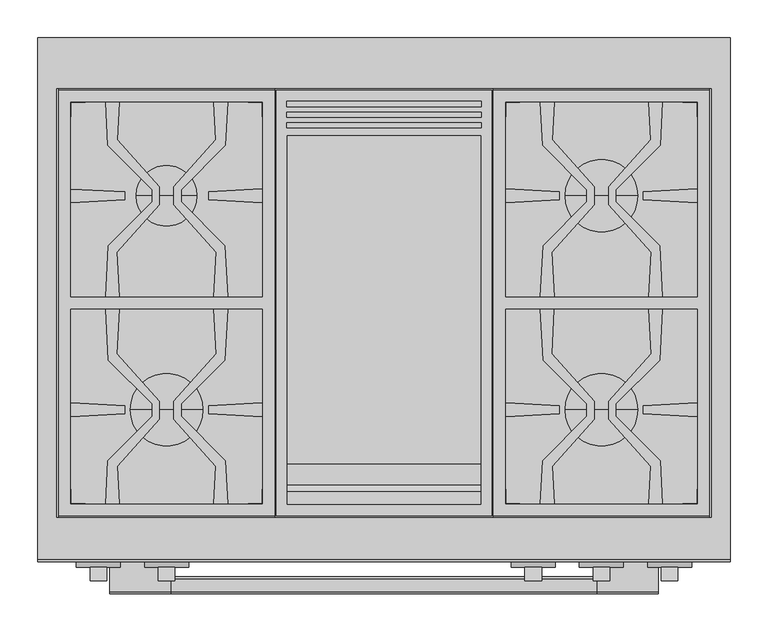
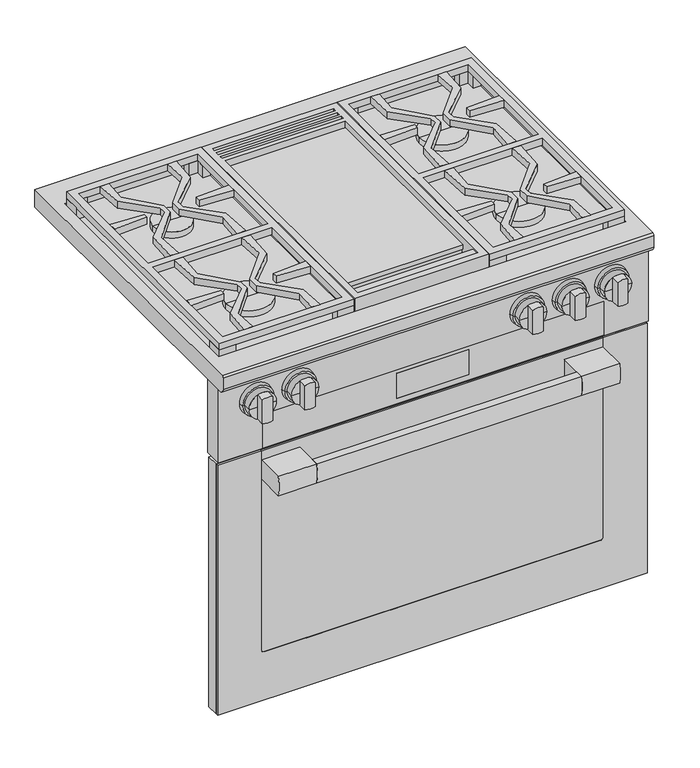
"""IFC4 building model written with IfcOpenShell, lengths in millimetres: proxy geometry, 11791610_USA_HR1936-3G_EDST-CLST : 25193681_USA_11791610_HR1936-3G_EDST-CLST."""

from ifc_helpers import new_model, si_unit, point, frame, frame_2d, origin, place, context, project, spatial, polyline, circle_curve, trimmed, segment, composite_curve, outline, extrude, faceted_brep, source, transform, mapped, element, save
from ifc_brep_helpers import plane_surface, cylinder_surface, revolved_surface, advanced_brep


def specialty_equipment_9b3b433e(model_context):
    return source(origin(), model_context, "Body", "SolidModel", [
        extrude(outline(composite_curve([segment(polyline([(-714.0, 624.0), (-731.0, 624.0)]), True, "CONTINUOUS"), segment(trimmed(circle_curve(frame_2d((-655.4583333, 645.5)), 78.5416667), [point((-731.0, 624.0))], [point((-731.0, 667.0))], False, "CARTESIAN"), True, "CONTINUOUS"), segment(polyline([(-731.0, 667.0), (-714.0, 667.0)]), True, "CONTINUOUS"), segment(trimmed(circle_curve(frame_2d((-789.5416667, 645.5)), 78.5416667), [point((-714.0, 667.0))], [point((-714.0, 624.0))], False, "CARTESIAN"), True, "CONTINUOUS")], self_intersect=False)), frame((-281.0, 0.0, 0.0), z_axis=(1.0, 0.0, 0.0), x_axis=(0.0, 1.0, 0.0)), (0.0, 0.0, 1.0), 562.0),
        extrude(outline(composite_curve([segment(polyline([(-731.0, 667.0), (-668.7, 667.0), (-668.7, 624.0), (-731.0, 624.0)]), True, "CONTINUOUS"), segment(trimmed(circle_curve(frame_2d((-655.4583333, 645.5)), 78.5416667), [point((-731.0, 624.0))], [point((-731.0, 667.0))], False, "CARTESIAN"), True, "CONTINUOUS")], self_intersect=False)), frame((281.0, 0.0, 0.0), z_axis=(1.0, 0.0, 0.0), x_axis=(0.0, 1.0, 0.0)), (0.0, 0.0, 1.0), 81.0),
        extrude(outline(composite_curve([segment(polyline([(-668.7, 667.0), (-668.7, 624.0), (-731.0, 624.0)]), True, "CONTINUOUS"), segment(trimmed(circle_curve(frame_2d((-655.4583333, 645.5)), 78.5416667), [point((-731.0, 624.0))], [point((-731.0, 667.0))], False, "CARTESIAN"), True, "CONTINUOUS"), segment(polyline([(-731.0, 667.0), (-668.7, 667.0)]), True, "CONTINUOUS")], self_intersect=False)), frame((-362.0, 0.0, 0.0), z_axis=(1.0, 0.0, 0.0), x_axis=(0.0, 1.0, 0.0)), (0.0, 0.0, 1.0), 81.0),
        extrude(outline(polyline([(-456.0, -638.0), (456.0, -638.0), (456.0, -664.7), (-456.0, -664.7), (-456.0, -638.0)])), frame((0.0, 0.0, 127.0), z_axis=(0.0, 0.0, 1.0), x_axis=(1.0, 0.0, 0.0)), (0.0, 0.0, 1.0), 561.0),
        extrude(outline(polyline([(-455.0, -664.7), (455.0, -664.7), (455.0, -668.7), (-455.0, -668.7), (-455.0, -664.7)])), frame((0.0, 0.0, 128.0), z_axis=(0.0, 0.0, 1.0), x_axis=(1.0, 0.0, 0.0)), (0.0, 0.0, 1.0), 559.0),
        advanced_brep(
        [(363.0, -664.7, 688.0), (456.0, -664.7, 688.0), (456.0, -664.7, 127.0), (-456.0, -664.7, 127.0), (-456.0, -664.7, 688.0), (-363.0, -664.7, 688.0), (-363.0, -664.7, 687.0), (-455.0, -664.7, 687.0), (-455.0, -664.7, 128.0), (455.0, -664.7, 128.0), (455.0, -664.7, 687.0), (363.0, -664.7, 687.0), (-363.0, -670.0, 688.0), (-456.0, -670.0, 688.0), (-456.0, -670.0, 127.0), (456.0, -670.0, 127.0), (456.0, -670.0, 688.0), (363.0, -670.0, 688.0), (363.0, -670.0, 241.0), (357.0, -670.0, 235.0), (-357.0, -670.0, 235.0), (-363.0, -670.0, 241.0), (-363.0, -668.7, 241.0), (-363.0, -668.7, 687.0), (357.0, -668.7, 235.0), (-357.0, -668.7, 235.0), (363.0, -668.7, 687.0), (363.0, -668.7, 241.0), (455.0, -668.7, 687.0), (455.0, -668.7, 128.0), (-455.0, -668.7, 128.0), (-455.0, -668.7, 687.0)],
        [
            (0, 1),
            (1, 2),
            (2, 3),
            (3, 4),
            (4, 5),
            (5, 6),
            (6, 7),
            (7, 8),
            (8, 9),
            (9, 10),
            (10, 11),
            (11, 0),
            (12, 13),
            (13, 14),
            (14, 15),
            (15, 16),
            (16, 17),
            (17, 18),
            (18, 19, circle_curve(frame((357.0, -670.0, 241.0), z_axis=(0.0, 1.0, 0.0), x_axis=(-1.0, 0.0, 0.0)), 6.0)),
            (19, 20),
            (20, 21, circle_curve(frame((-357.0, -670.0, 241.0), z_axis=(0.0, 1.0, 0.0), x_axis=(-1.0, 0.0, 0.0)), 6.0)),
            (21, 12),
            (21, 22),
            (22, 23),
            (23, 6),
            (5, 12),
            (19, 24),
            (24, 25),
            (25, 20),
            (17, 0),
            (11, 26),
            (26, 27),
            (27, 18),
            (16, 1),
            (15, 2),
            (14, 3),
            (13, 4),
            (25, 22, circle_curve(frame((-357.0, -668.7, 241.0), z_axis=(0.0, 1.0, 0.0), x_axis=(-1.0, 0.0, 0.0)), 6.0)),
            (27, 24, circle_curve(frame((357.0, -668.7, 241.0), z_axis=(0.0, 1.0, 0.0), x_axis=(-1.0, 0.0, 0.0)), 6.0)),
            (28, 29),
            (29, 30),
            (30, 31),
            (31, 23),
            (26, 28),
            (28, 10),
            (9, 29),
            (8, 30),
            (7, 31),
        ],
        [
            plane_surface(frame((-363.0, -664.7, 241.0), z_axis=(0.0, 1.0, 0.0), x_axis=(0.0, 0.0, -1.0))),
            plane_surface(frame((-363.0, -670.0, 241.0), z_axis=(0.0, -1.0, 0.0), x_axis=(0.0, 0.0, 1.0))),
            plane_surface(frame((-363.0, -664.7, 688.0), z_axis=(1.0, 0.0, 0.0), x_axis=(0.0, -1.0, 0.0))),
            plane_surface(frame((-357.0, -664.7, 235.0), z_axis=(0.0, 0.0, 1.0), x_axis=(0.0, -1.0, 0.0))),
            plane_surface(frame((363.0, -664.7, 241.0), z_axis=(-1.0, 0.0, 0.0), x_axis=(0.0, -1.0, 0.0))),
            plane_surface(frame((363.0, -664.7, 688.0), z_axis=(0.0, 0.0, 1.0), x_axis=(0.0, -1.0, 0.0))),
            plane_surface(frame((456.0, -664.7, 688.0), z_axis=(1.0, 0.0, 0.0), x_axis=(0.0, -1.0, 0.0))),
            plane_surface(frame((456.0, -664.7, 127.0), z_axis=(0.0, 0.0, -1.0), x_axis=(0.0, -1.0, 0.0))),
            plane_surface(frame((-456.0, -664.7, 127.0), z_axis=(-1.0, 0.0, 0.0), x_axis=(0.0, -1.0, 0.0))),
            plane_surface(frame((-456.0, -664.7, 688.0), z_axis=(0.0, 0.0, 1.0), x_axis=(0.0, -1.0, 0.0))),
            revolved_surface(polyline([(-363.0, -670.0, 241.0), (-363.0, -668.7, 241.0)]), (-357.0, -670.0, 241.0), (0.0, -1.0, 0.0)),
            revolved_surface(polyline([(351.0, -670.0, 241.0), (351.0, -668.7, 241.0)]), (357.0, -670.0, 241.0), (0.0, -1.0, 0.0)),
            plane_surface(frame((455.0, -668.7, 687.0), z_axis=(0.0, 1.0, 0.0), x_axis=(0.0, 0.0, 1.0))),
            plane_surface(frame((455.0, -664.7, 687.0), z_axis=(-1.0, 0.0, 0.0), x_axis=(0.0, -1.0, 0.0))),
            plane_surface(frame((455.0, -664.7, 128.0), z_axis=(0.0, 0.0, 1.0), x_axis=(0.0, -1.0, 0.0))),
            plane_surface(frame((-455.0, -664.7, 128.0), z_axis=(1.0, 0.0, 0.0), x_axis=(0.0, -1.0, 0.0))),
            plane_surface(frame((-455.0, -664.7, 687.0), z_axis=(0.0, 0.0, -1.0), x_axis=(0.0, -1.0, 0.0))),
        ],
        [
            (0, [[1, 2, 3, 4, 5, 6, 7, 8, 9, 10, 11, 12]]),
            (1, [[13, 14, 15, 16, 17, 18, 19, 20, 21, 22]]),
            (2, [[-22, 23, 24, 25, -6, 26]]),
            (3, [[-20, 27, 28, 29]]),
            (4, [[-18, 30, -12, 31, 32, 33]]),
            (5, [[-1, -30, -17, 34]]),
            (6, [[-2, -34, -16, 35]]),
            (7, [[-3, -35, -15, 36]]),
            (8, [[-4, -36, -14, 37]]),
            (9, [[-5, -37, -13, -26]]),
            (10, [[-21, -29, 38, -23]]),
            (11, [[-19, -33, 39, -27]]),
            (12, [[40, 41, 42, 43, -24, -38, -28, -39, -32, 44]]),
            (13, [[-40, 45, -10, 46]]),
            (14, [[-41, -46, -9, 47]]),
            (15, [[-42, -47, -8, 48]]),
            (16, [[-45, -44, -31, -11]]),
            (16, [[-48, -7, -25, -43]]),
        ],
    ),
        extrude(outline(polyline([(-427.0, -617.0), (427.0, -617.0), (427.0, -638.0), (-427.0, -638.0), (-427.0, -617.0)])), frame((0.0, 0.0, 133.0), z_axis=(0.0, 0.0, 1.0), x_axis=(1.0, 0.0, 0.0)), (0.0, 0.0, 1.0), 550.0),
        extrude(outline(polyline([(206.4177304, -358.0273828), (224.4174107, -358.0273828), (221.3474419, -416.9894265), (277.4590566, -479.568392), (277.4590566, -503.4471434), (221.8930533, -565.5024535), (224.5051055, -615.0212482), (206.5054252, -615.0212482), (209.4706458, -558.0710081), (267.8494553, -499.6921986), (267.8494553, -483.3657133), (209.9764383, -425.4926963), (206.4177304, -358.0273828)])), frame((0.0, 0.0, 914.0), z_axis=(0.0, 0.0, 1.0), x_axis=(1.0, 0.0, 0.0)), (0.0, 0.0, 1.0), 15.0),
        extrude(outline(polyline([(352.5666917, -416.9448139), (349.4588735, -358.0273828), (367.4534566, -358.0273828), (363.9434746, -425.4403498), (306.0712231, -483.3126013), (306.0712231, -499.6295194), (364.5438392, -558.1021355), (367.5462487, -615.0212482), (349.541471, -615.0212482), (352.1220648, -565.4581775), (296.4590702, -503.3795395), (296.4590702, -479.6049953), (352.5666917, -416.9448139)])), frame((0.0, 0.0, 914.0), z_axis=(0.0, 0.0, 1.0), x_axis=(1.0, 0.0, 0.0)), (0.0, 0.0, 1.0), 15.0),
        extrude(outline(polyline([(-367.5822696, -358.0273828), (-349.5825893, -358.0273828), (-352.6525581, -416.9894265), (-296.5409434, -479.568392), (-296.5409434, -503.4471434), (-352.1069467, -565.5024535), (-349.4948945, -615.0212482), (-367.4945748, -615.0212482), (-364.5293542, -558.0710081), (-306.1505447, -499.6921986), (-306.1505447, -483.3657133), (-364.0235617, -425.4926963), (-367.5822696, -358.0273828)])), frame((0.0, 0.0, 914.0), z_axis=(0.0, 0.0, 1.0), x_axis=(1.0, 0.0, 0.0)), (0.0, 0.0, 1.0), 15.0),
        extrude(outline(polyline([(-224.5411265, -358.0273828), (-206.5465434, -358.0273828), (-210.0565254, -425.4403498), (-267.9287769, -483.3126013), (-267.9287769, -499.6295194), (-209.4561608, -558.1021355), (-206.4537513, -615.0212482), (-224.458529, -615.0212482), (-221.8779352, -565.4581775), (-277.5409298, -503.3795395), (-277.5409298, -479.6049953), (-221.4333083, -416.9448139), (-224.5411265, -358.0273828)])), frame((0.0, 0.0, 914.0), z_axis=(0.0, 0.0, 1.0), x_axis=(1.0, 0.0, 0.0)), (0.0, 0.0, 1.0), 15.0),
        extrude(outline(polyline([(206.4614138, -85.0), (224.4614138, -85.0), (221.8661974, -134.5196799), (277.5, -196.6082182), (277.5, -220.3917818), (221.3710782, -283.0328838), (224.4614138, -342.0), (206.4614138, -342.0), (209.9971843, -274.5334805), (267.8891082, -216.6415566), (267.8891082, -200.3584434), (209.4441217, -141.9134569), (206.4614138, -85.0)])), frame((0.0, 0.0, 914.0), z_axis=(0.0, 0.0, 1.0), x_axis=(1.0, 0.0, 0.0)), (0.0, 0.0, 1.0), 15.0),
        extrude(outline(polyline([(349.5, -85.0), (367.5, -85.0), (364.5172921, -141.9134569), (306.1108918, -200.3198573), (306.1108918, -216.6801428), (363.9642295, -274.5334805), (367.5, -342.0), (349.5, -342.0), (352.5903356, -283.0328839), (296.5, -220.4348449), (296.5, -196.5651551), (352.0952165, -134.5196799), (349.5, -85.0)])), frame((0.0, 0.0, 914.0), z_axis=(0.0, 0.0, 1.0), x_axis=(1.0, 0.0, 0.0)), (0.0, 0.0, 1.0), 15.0),
        extrude(outline(polyline([(-367.5385862, -85.0), (-349.5385862, -85.0), (-352.1338026, -134.5196799), (-296.5, -196.6082182), (-296.5, -220.3917818), (-352.6289218, -283.0328838), (-349.5385862, -342.0), (-367.5385862, -342.0), (-364.0028157, -274.5334805), (-306.1108918, -216.6415566), (-306.1108918, -200.3584434), (-364.5558783, -141.9134569), (-367.5385862, -85.0)])), frame((0.0, 0.0, 914.0), z_axis=(0.0, 0.0, 1.0), x_axis=(1.0, 0.0, 0.0)), (0.0, 0.0, 1.0), 15.0),
        extrude(outline(polyline([(-224.5, -85.0), (-206.5, -85.0), (-209.4827079, -141.9134569), (-267.8891082, -200.3198573), (-267.8891082, -216.6801428), (-210.0357705, -274.5334805), (-206.5, -342.0), (-224.5, -342.0), (-221.4096644, -283.0328839), (-277.5, -220.4348449), (-277.5, -196.5651551), (-221.9047835, -134.5196799), (-224.5, -85.0)])), frame((0.0, 0.0, 914.0), z_axis=(0.0, 0.0, 1.0), x_axis=(1.0, 0.0, 0.0)), (0.0, 0.0, 1.0), 15.0),
        extrude(outline(polyline([(429.5, -67.0), (429.5, -633.0), (144.5, -633.0), (144.5, -67.0), (429.5, -67.0)])), frame((0.0, 0.0, 870.0), z_axis=(0.0, 0.0, 1.0), x_axis=(1.0, 0.0, 0.0)), (0.0, 0.0, 1.0), 17.0),
        extrude(outline(polyline([(-144.5, -67.0), (-144.5, -633.0), (-429.5, -633.0), (-429.5, -67.0), (-144.5, -67.0)])), frame((0.0, 0.0, 870.0), z_axis=(0.0, 0.0, 1.0), x_axis=(1.0, 0.0, 0.0)), (0.0, 0.0, 1.0), 17.0),
        extrude(outline(polyline([(-342.5, -213.7921261), (-413.5, -217.4578849), (-413.5, -199.5421151), (-342.5, -203.2078739), (-342.5, -213.7921261)])), frame((0.0, 0.0, 914.0), z_axis=(0.0, 0.0, 1.0), x_axis=(1.0, 0.0, 0.0)), (0.0, 0.0, 1.0), 15.0),
        extrude(outline(polyline([(-160.5, -199.5029948), (-160.5, -217.4970052), (-231.5, -213.7790477), (-231.5, -203.2209523), (-160.5, -199.5029948)])), frame((0.0, 0.0, 914.0), z_axis=(0.0, 0.0, 1.0), x_axis=(1.0, 0.0, 0.0)), (0.0, 0.0, 1.0), 15.0),
        extrude(outline(polyline([(-342.5, -496.2921261), (-413.5, -499.9578849), (-413.5, -482.0421151), (-342.5, -485.7078739), (-342.5, -496.2921261)])), frame((0.0, 0.0, 914.0), z_axis=(0.0, 0.0, 1.0), x_axis=(1.0, 0.0, 0.0)), (0.0, 0.0, 1.0), 15.0),
        extrude(outline(polyline([(-160.5, -482.0029948), (-160.5, -499.9970052), (-231.5, -496.2790477), (-231.5, -485.7209523), (-160.5, -482.0029948)])), frame((0.0, 0.0, 914.0), z_axis=(0.0, 0.0, 1.0), x_axis=(1.0, 0.0, 0.0)), (0.0, 0.0, 1.0), 15.0),
        extrude(outline(polyline([(-144.5, -631.0), (-179.5, -631.0), (-179.5, -615.0), (-160.5, -615.0), (-160.5, -596.0), (-144.5, -596.0), (-144.5, -631.0)])), frame((0.0, 0.0, 887.0), z_axis=(0.0, 0.0, 1.0), x_axis=(1.0, 0.0, 0.0)), (0.0, 0.0, 1.0), 27.0),
        extrude(outline(polyline([(-429.5, -631.0), (-429.5, -596.0), (-413.5, -596.0), (-413.5, -615.0), (-394.5, -615.0), (-394.5, -631.0), (-429.5, -631.0)])), frame((0.0, 0.0, 887.0), z_axis=(0.0, 0.0, 1.0), x_axis=(1.0, 0.0, 0.0)), (0.0, 0.0, 1.0), 27.0),
        extrude(outline(polyline([(-144.5, -69.0), (-144.5, -104.0), (-160.5, -104.0), (-160.5, -85.0), (-179.5, -85.0), (-179.5, -69.0), (-144.5, -69.0)])), frame((0.0, 0.0, 887.0), z_axis=(0.0, 0.0, 1.0), x_axis=(1.0, 0.0, 0.0)), (0.0, 0.0, 1.0), 27.0),
        extrude(outline(polyline([(-429.5, -69.0), (-394.5, -69.0), (-394.5, -85.0), (-413.5, -85.0), (-413.5, -104.0), (-429.5, -104.0), (-429.5, -69.0)])), frame((0.0, 0.0, 887.0), z_axis=(0.0, 0.0, 1.0), x_axis=(1.0, 0.0, 0.0)), (0.0, 0.0, 1.0), 27.0),
        extrude(outline(polyline([(160.5, -499.9810574), (160.5, -482.0189426), (231.5, -485.7078739), (231.5, -496.2921261), (160.5, -499.9810574)])), frame((0.0, 0.0, 914.0), z_axis=(0.0, 0.0, 1.0), x_axis=(1.0, 0.0, 0.0)), (0.0, 0.0, 1.0), 15.0),
        extrude(outline(polyline([(413.5, -482.0262039), (413.5, -499.9737961), (342.5, -496.2790477), (342.5, -485.7209523), (413.5, -482.0262039)])), frame((0.0, 0.0, 914.0), z_axis=(0.0, 0.0, 1.0), x_axis=(1.0, 0.0, 0.0)), (0.0, 0.0, 1.0), 15.0),
        extrude(outline(polyline([(160.5, -217.4810574), (160.5, -199.5189426), (231.5, -203.2078739), (231.5, -213.7921261), (160.5, -217.4810574)])), frame((0.0, 0.0, 914.0), z_axis=(0.0, 0.0, 1.0), x_axis=(1.0, 0.0, 0.0)), (0.0, 0.0, 1.0), 15.0),
        extrude(outline(polyline([(413.5, -199.5262039), (413.5, -217.4737961), (342.5, -213.7790477), (342.5, -203.2209523), (413.5, -199.5262039)])), frame((0.0, 0.0, 914.0), z_axis=(0.0, 0.0, 1.0), x_axis=(1.0, 0.0, 0.0)), (0.0, 0.0, 1.0), 15.0),
        advanced_brep(
        [(239.0, -208.5, 887.0), (335.0, -208.5, 887.0), (335.0, -208.5, 901.0), (239.0, -208.5, 901.0), (287.0, -208.5, 887.0), (287.0, -208.5, 901.0)],
        [
            (0, 1, circle_curve(frame((287.0, -208.5, 887.0), z_axis=(0.0, 0.0, 1.0), x_axis=(1.0, 0.0, 0.0)), 48.0)),
            (1, 2),
            (2, 3, circle_curve(frame((287.0, -208.5, 901.0), z_axis=(0.0, 0.0, -1.0), x_axis=(1.0, 0.0, 0.0)), 48.0)),
            (3, 0),
            (1, 0, circle_curve(frame((287.0, -208.5, 887.0), z_axis=(0.0, 0.0, 1.0), x_axis=(1.0, 0.0, 0.0)), 48.0)),
            (3, 2, circle_curve(frame((287.0, -208.5, 901.0), z_axis=(0.0, 0.0, -1.0), x_axis=(1.0, 0.0, 0.0)), 48.0)),
            (4, 1),
            (0, 4),
            (2, 5),
            (5, 3),
        ],
        [
            cylinder_surface(frame((287.0, -208.5, 2424.4), z_axis=(0.0, 0.0, -1.0), x_axis=(1.0, 0.0, 0.0)), 48.0),
            plane_surface(frame((287.0, -208.5, 887.0), z_axis=(0.0, 0.0, -1.0), x_axis=(1.0, 0.0, 0.0))),
            plane_surface(frame((287.0, -208.5, 901.0), z_axis=(0.0, 0.0, 1.0), x_axis=(1.0, 0.0, 0.0))),
        ],
        [
            (0, [[1, 2, 3, 4]]),
            (0, [[5, -4, 6, -2]]),
            (1, [[7, -1, 8]]),
            (1, [[-8, -5, -7]]),
            (2, [[-3, 9, 10]]),
            (2, [[-6, -10, -9]]),
        ],
    ),
        extrude(outline(polyline([(-144.5, -69.0), (-144.5, -631.0), (-429.5, -631.0), (-429.5, -69.0), (-144.5, -69.0)]), holes=[polyline([(-160.5, -85.0), (-413.5, -85.0), (-413.5, -342.0), (-160.5, -342.0), (-160.5, -85.0)]), polyline([(-413.5, -358.0), (-413.5, -615.0), (-160.5, -615.0), (-160.5, -358.0), (-413.5, -358.0)])]), frame((0.0, 0.0, 914.0), z_axis=(0.0, 0.0, 1.0), x_axis=(1.0, 0.0, 0.0)), (0.0, 0.0, 1.0), 15.0),
        extrude(outline(polyline([(429.5, -69.0), (429.5, -631.0), (144.5, -631.0), (144.5, -69.0), (429.5, -69.0)]), holes=[polyline([(413.5, -85.0), (160.5, -85.0), (160.5, -342.0), (413.5, -342.0), (413.5, -85.0)]), polyline([(160.5, -358.0), (160.5, -615.0), (413.5, -615.0), (413.5, -358.0), (160.5, -358.0)])]), frame((0.0, 0.0, 914.0), z_axis=(0.0, 0.0, 1.0), x_axis=(1.0, 0.0, 0.0)), (0.0, 0.0, 1.0), 15.0),
        advanced_brep(
        [(239.0, -491.0, 887.0), (335.0, -491.0, 887.0), (335.0, -491.0, 901.0), (239.0, -491.0, 901.0), (287.0, -491.0, 887.0), (287.0, -491.0, 901.0)],
        [
            (0, 1, circle_curve(frame((287.0, -491.0, 887.0), z_axis=(0.0, 0.0, 1.0), x_axis=(1.0, 0.0, 0.0)), 48.0)),
            (1, 2),
            (2, 3, circle_curve(frame((287.0, -491.0, 901.0), z_axis=(0.0, 0.0, -1.0), x_axis=(1.0, 0.0, 0.0)), 48.0)),
            (3, 0),
            (1, 0, circle_curve(frame((287.0, -491.0, 887.0), z_axis=(0.0, 0.0, 1.0), x_axis=(1.0, 0.0, 0.0)), 48.0)),
            (3, 2, circle_curve(frame((287.0, -491.0, 901.0), z_axis=(0.0, 0.0, -1.0), x_axis=(1.0, 0.0, 0.0)), 48.0)),
            (4, 1),
            (0, 4),
            (2, 5),
            (5, 3),
        ],
        [
            cylinder_surface(frame((287.0, -491.0, 2424.4), z_axis=(0.0, 0.0, -1.0), x_axis=(1.0, 0.0, 0.0)), 48.0),
            plane_surface(frame((287.0, -491.0, 887.0), z_axis=(0.0, 0.0, -1.0), x_axis=(1.0, 0.0, 0.0))),
            plane_surface(frame((287.0, -491.0, 901.0), z_axis=(0.0, 0.0, 1.0), x_axis=(1.0, 0.0, 0.0))),
        ],
        [
            (0, [[1, 2, 3, 4]]),
            (0, [[5, -4, 6, -2]]),
            (1, [[7, -1, 8]]),
            (1, [[-8, -5, -7]]),
            (2, [[-3, 9, 10]]),
            (2, [[-6, -10, -9]]),
        ],
    ),
        extrude(outline(polyline([(429.5, -631.0), (394.5, -631.0), (394.5, -615.0), (413.5, -615.0), (413.5, -596.0), (429.5, -596.0), (429.5, -631.0)])), frame((0.0, 0.0, 887.0), z_axis=(0.0, 0.0, 1.0), x_axis=(1.0, 0.0, 0.0)), (0.0, 0.0, 1.0), 27.0),
        extrude(outline(polyline([(144.5, -631.0), (144.5, -596.0), (160.5125078, -596.0), (160.5125078, -615.0), (179.5, -615.0), (179.5, -631.0), (144.5, -631.0)])), frame((0.0, 0.0, 887.0), z_axis=(0.0, 0.0, 1.0), x_axis=(1.0, 0.0, 0.0)), (0.0, 0.0, 1.0), 27.0),
        extrude(outline(polyline([(429.5, -69.0), (429.5, -104.0), (413.4874922, -104.0), (413.4874922, -85.0), (394.5, -85.0), (394.5, -69.0), (429.5, -69.0)])), frame((0.0, 0.0, 887.0), z_axis=(0.0, 0.0, 1.0), x_axis=(1.0, 0.0, 0.0)), (0.0, 0.0, 1.0), 27.0),
        extrude(outline(polyline([(144.5, -69.0), (179.5, -69.0), (179.5, -85.0), (160.5125078, -85.0), (160.5125078, -104.0), (144.5, -104.0), (144.5, -69.0)])), frame((0.0, 0.0, 887.0), z_axis=(0.0, 0.0, 1.0), x_axis=(1.0, 0.0, 0.0)), (0.0, 0.0, 1.0), 27.0),
        advanced_brep(
        [(-287.0, -208.5, 887.0), (-247.0, -208.5, 887.0), (-327.0, -208.5, 887.0), (-327.0, -208.5, 901.0), (-247.0, -208.5, 901.0), (-287.0, -208.5, 901.0)],
        [
            (0, 1),
            (1, 2, circle_curve(frame((-287.0, -208.5, 887.0), z_axis=(0.0, 0.0, -1.0), x_axis=(1.0, 0.0, 0.0)), 40.0)),
            (2, 0),
            (2, 1, circle_curve(frame((-287.0, -208.5, 887.0), z_axis=(0.0, 0.0, -1.0), x_axis=(1.0, 0.0, 0.0)), 40.0)),
            (3, 4, circle_curve(frame((-287.0, -208.5, 901.0), z_axis=(0.0, 0.0, 1.0), x_axis=(1.0, 0.0, 0.0)), 40.0)),
            (4, 5),
            (5, 3),
            (4, 3, circle_curve(frame((-287.0, -208.5, 901.0), z_axis=(0.0, 0.0, 1.0), x_axis=(1.0, 0.0, 0.0)), 40.0)),
            (1, 4),
            (3, 2),
        ],
        [
            plane_surface(frame((-287.0, -208.5, 887.0), z_axis=(0.0, 0.0, -1.0), x_axis=(1.0, 0.0, 0.0))),
            plane_surface(frame((-287.0, -208.5, 901.0), z_axis=(0.0, 0.0, 1.0), x_axis=(1.0, 0.0, 0.0))),
            cylinder_surface(frame((-287.0, -208.5, 2424.4), z_axis=(0.0, 0.0, -1.0), x_axis=(1.0, 0.0, 0.0)), 40.0),
        ],
        [
            (0, [[1, 2, 3]]),
            (0, [[-3, 4, -1]]),
            (1, [[5, 6, 7]]),
            (1, [[8, -7, -6]]),
            (2, [[-2, 9, -5, 10]]),
            (2, [[-4, -10, -8, -9]]),
        ],
    ),
        advanced_brep(
        [(-335.0, -491.0, 887.0), (-239.0, -491.0, 887.0), (-239.0, -491.0, 901.0), (-335.0, -491.0, 901.0), (-287.0, -491.0, 887.0), (-287.0, -491.0, 901.0)],
        [
            (0, 1, circle_curve(frame((-287.0, -491.0, 887.0), z_axis=(0.0, 0.0, 1.0), x_axis=(1.0, 0.0, 0.0)), 48.0)),
            (1, 2),
            (2, 3, circle_curve(frame((-287.0, -491.0, 901.0), z_axis=(0.0, 0.0, -1.0), x_axis=(1.0, 0.0, 0.0)), 48.0)),
            (3, 0),
            (1, 0, circle_curve(frame((-287.0, -491.0, 887.0), z_axis=(0.0, 0.0, 1.0), x_axis=(1.0, 0.0, 0.0)), 48.0)),
            (3, 2, circle_curve(frame((-287.0, -491.0, 901.0), z_axis=(0.0, 0.0, -1.0), x_axis=(1.0, 0.0, 0.0)), 48.0)),
            (4, 1),
            (0, 4),
            (2, 5),
            (5, 3),
        ],
        [
            cylinder_surface(frame((-287.0, -491.0, 2424.4), z_axis=(0.0, 0.0, -1.0), x_axis=(1.0, 0.0, 0.0)), 48.0),
            plane_surface(frame((-287.0, -491.0, 887.0), z_axis=(0.0, 0.0, -1.0), x_axis=(1.0, 0.0, 0.0))),
            plane_surface(frame((-287.0, -491.0, 901.0), z_axis=(0.0, 0.0, 1.0), x_axis=(1.0, 0.0, 0.0))),
        ],
        [
            (0, [[1, 2, 3, 4]]),
            (0, [[5, -4, 6, -2]]),
            (1, [[7, -1, 8]]),
            (1, [[-8, -5, -7]]),
            (2, [[-3, 9, 10]]),
            (2, [[-6, -10, -9]]),
        ],
    ),
        advanced_brep(
        [(457.0, 0.0, 902.0), (457.0, -688.3499547, 902.0), (457.0, -692.0, 898.3499547), (457.0, -692.0, 872.0), (457.0, -682.0, 862.0), (457.0, 0.0, 862.0), (-457.0, 0.0, 902.0), (-457.0, 0.0, 862.0), (-457.0, -682.0, 862.0), (-457.0, -692.0, 872.0), (-457.0, -692.0, 898.3499547), (-457.0, -688.3499547, 902.0), (-432.0, -67.0, 902.0), (432.0, -67.0, 902.0), (432.0, -633.0, 902.0), (-432.0, -633.0, 902.0), (432.0, -67.0, 870.0), (-432.0, -67.0, 870.0), (-432.0, -633.0, 870.0), (432.0, -633.0, 870.0)],
        [
            (0, 1),
            (1, 2, circle_curve(frame((457.0, -688.0, 898.0), z_axis=(1.0, 0.0, 0.0), x_axis=(0.0, 0.0, 1.0)), 4.0152794)),
            (2, 3),
            (3, 4, circle_curve(frame((457.0, -682.0, 872.0), z_axis=(1.0, 0.0, 0.0), x_axis=(0.0, 0.0, 1.0)), 10.0)),
            (4, 5),
            (5, 0),
            (6, 7),
            (7, 8),
            (8, 9, circle_curve(frame((-457.0, -682.0, 872.0), z_axis=(-1.0, 0.0, 0.0), x_axis=(0.0, 0.0, 1.0)), 10.0)),
            (9, 10),
            (10, 11, circle_curve(frame((-457.0, -688.0, 898.0), z_axis=(-1.0, 0.0, 0.0), x_axis=(0.0, 0.0, 1.0)), 4.0152794)),
            (11, 6),
            (0, 6),
            (11, 1),
            (12, 13),
            (13, 14),
            (14, 15),
            (15, 12),
            (10, 2),
            (9, 3),
            (8, 4),
            (7, 5),
            (16, 17),
            (17, 18),
            (18, 19),
            (19, 16),
            (16, 13),
            (12, 17),
            (15, 18),
            (14, 19),
        ],
        [
            plane_surface(frame((457.0, -688.3499547, 902.0), z_axis=(1.0, 0.0, 0.0), x_axis=(0.0, -1.0, 0.0))),
            plane_surface(frame((-457.0, -688.3499547, 902.0), z_axis=(-1.0, 0.0, 0.0), x_axis=(0.0, 1.0, 0.0))),
            plane_surface(frame((457.0, 0.0, 902.0), z_axis=(0.0, 0.0, 1.0), x_axis=(-1.0, 0.0, 0.0))),
            cylinder_surface(frame((-457.0, -688.0, 898.0), z_axis=(1.0, 0.0, 0.0), x_axis=(0.0, 0.0, 1.0)), 4.0152794),
            plane_surface(frame((457.0, -692.0, 898.3499547), z_axis=(0.0, -1.0, 0.0), x_axis=(-1.0, 0.0, 0.0))),
            cylinder_surface(frame((-457.0, -682.0, 872.0), z_axis=(1.0, 0.0, 0.0), x_axis=(0.0, 0.0, 1.0)), 10.0),
            plane_surface(frame((457.0, -682.0, 862.0), z_axis=(0.0, 0.0, -1.0), x_axis=(-1.0, 0.0, 0.0))),
            plane_surface(frame((457.0, 0.0, 862.0), z_axis=(0.0, 1.0, 0.0), x_axis=(-1.0, 0.0, 0.0))),
            plane_surface(frame((-432.0, -67.0, 870.0), z_axis=(0.0, 0.0, 1.0), x_axis=(1.0, 0.0, 0.0))),
            plane_surface(frame((432.0, -67.0, 902.0), z_axis=(0.0, -1.0, 0.0), x_axis=(0.0, 0.0, -1.0))),
            plane_surface(frame((-432.0, -67.0, 902.0), z_axis=(1.0, 0.0, 0.0), x_axis=(0.0, 0.0, -1.0))),
            plane_surface(frame((-432.0, -633.0, 902.0), z_axis=(0.0, 1.0, 0.0), x_axis=(0.0, 0.0, -1.0))),
            plane_surface(frame((432.0, -633.0, 902.0), z_axis=(-1.0, 0.0, 0.0), x_axis=(0.0, 0.0, -1.0))),
        ],
        [
            (0, [[1, 2, 3, 4, 5, 6]]),
            (1, [[7, 8, 9, 10, 11, 12]]),
            (2, [[-1, 13, -12, 14], [15, 16, 17, 18]]),
            (3, [[-2, -14, -11, 19]]),
            (4, [[-3, -19, -10, 20]]),
            (5, [[-4, -20, -9, 21]]),
            (6, [[-5, -21, -8, 22]]),
            (7, [[-6, -22, -7, -13]]),
            (8, [[23, 24, 25, 26]]),
            (9, [[-23, 27, -15, 28]]),
            (10, [[-24, -28, -18, 29]]),
            (11, [[-25, -29, -17, 30]]),
            (12, [[-26, -30, -16, -27]]),
        ],
    ),
        extrude(outline(polyline([(-599.0, 926.0), (-599.0, 916.0), (-602.0, 916.0), (-590.3423085, 891.0), (-558.0, 891.0), (-558.0, 904.0), (-562.0, 904.0), (-562.0, 914.0), (-129.0, 914.0), (-129.0, 904.0), (-557.0, 904.0), (-557.0, 890.0), (-590.9793788, 890.0), (-603.1033779, 916.0), (-616.0, 916.0), (-616.0, 926.0), (-599.0, 926.0)])), frame((-127.5, 0.0, 0.0), z_axis=(1.0, 0.0, 0.0), x_axis=(0.0, 1.0, 0.0)), (0.0, 0.0, 1.0), 255.0),
        extrude(outline(polyline([(142.5, -69.0), (142.5, -631.0), (-142.5, -631.0), (-142.5, -69.0), (142.5, -69.0)]), holes=[polyline([(127.5, -129.0), (-127.5, -129.0), (-127.5, -616.0), (127.5, -616.0), (127.5, -129.0)]), polyline([(-128.5, -84.0), (-128.5, -91.0), (128.5, -91.0), (128.5, -84.0), (-128.5, -84.0)]), polyline([(-128.5, -98.0), (-128.5, -105.0), (128.5, -105.0), (128.5, -98.0), (-128.5, -98.0)]), polyline([(-128.5, -112.0), (-128.5, -119.0), (128.5, -119.0), (128.5, -112.0), (-128.5, -112.0)])]), frame((0.0, 0.0, 891.0), z_axis=(0.0, 0.0, 1.0), x_axis=(1.0, 0.0, 0.0)), (0.0, 0.0, 1.0), 38.0),
        extrude(outline(composite_curve([segment(polyline([(839.8328157, -388.0), (786.1671843, -388.0)]), True, "CONTINUOUS"), segment(trimmed(circle_curve(frame_2d((813.0, -377.0)), 29.0), [point((786.1671843, -388.0))], [point((786.1671843, -366.0))], False, "CARTESIAN"), True, "CONTINUOUS"), segment(polyline([(786.1671843, -366.0), (839.8328157, -366.0)]), True, "CONTINUOUS"), segment(trimmed(circle_curve(frame_2d((813.0, -377.0)), 29.0), [point((839.8328157, -366.0))], [point((839.8328157, -388.0))], False, "CARTESIAN"), True, "CONTINUOUS")], self_intersect=False)), frame((0.0, -717.0, 0.0), z_axis=(0.0, 1.0, 0.0), x_axis=(0.0, 0.0, 1.0)), (0.0, 0.0, 1.0), 18.0),
        extrude(outline(composite_curve([segment(polyline([(839.8328157, -298.0), (786.1671843, -298.0)]), True, "CONTINUOUS"), segment(trimmed(circle_curve(frame_2d((813.0, -287.0)), 29.0), [point((786.1671843, -298.0))], [point((786.1671843, -276.0))], False, "CARTESIAN"), True, "CONTINUOUS"), segment(polyline([(786.1671843, -276.0), (839.8328157, -276.0)]), True, "CONTINUOUS"), segment(trimmed(circle_curve(frame_2d((813.0, -287.0)), 29.0), [point((839.8328157, -276.0))], [point((839.8328157, -298.0))], False, "CARTESIAN"), True, "CONTINUOUS")], self_intersect=False)), frame((0.0, -717.0, 0.0), z_axis=(0.0, 1.0, 0.0), x_axis=(0.0, 0.0, 1.0)), (0.0, 0.0, 1.0), 18.0),
        extrude(outline(composite_curve([segment(polyline([(839.8328157, 186.0), (786.1671843, 186.0)]), True, "CONTINUOUS"), segment(trimmed(circle_curve(frame_2d((813.0, 197.0)), 29.0), [point((786.1671843, 186.0))], [point((786.1671843, 208.0))], False, "CARTESIAN"), True, "CONTINUOUS"), segment(polyline([(786.1671843, 208.0), (839.8328157, 208.0)]), True, "CONTINUOUS"), segment(trimmed(circle_curve(frame_2d((813.0, 197.0)), 29.0), [point((839.8328157, 208.0))], [point((839.8328157, 186.0))], False, "CARTESIAN"), True, "CONTINUOUS")], self_intersect=False)), frame((0.0, -717.0, 0.0), z_axis=(0.0, 1.0, 0.0), x_axis=(0.0, 0.0, 1.0)), (0.0, 0.0, 1.0), 18.0),
        extrude(outline(composite_curve([segment(trimmed(circle_curve(frame_2d((813.0, 287.0)), 29.0), [point((786.1671843, 276.0))], [point((786.1671843, 298.0))], False, "CARTESIAN"), True, "CONTINUOUS"), segment(polyline([(786.1671843, 298.0), (839.8328157, 298.0)]), True, "CONTINUOUS"), segment(trimmed(circle_curve(frame_2d((813.0, 287.0)), 29.0), [point((839.8328157, 298.0))], [point((839.8328157, 276.0))], False, "CARTESIAN"), True, "CONTINUOUS"), segment(polyline([(839.8328157, 276.0), (786.1671843, 276.0)]), True, "CONTINUOUS")], self_intersect=False)), frame((0.0, -717.0, 0.0), z_axis=(0.0, 1.0, 0.0), x_axis=(0.0, 0.0, 1.0)), (0.0, 0.0, 1.0), 18.0),
        advanced_brep(
        [(-377.0, -683.0, 813.0), (-348.0, -683.0, 813.0), (-406.0, -683.0, 813.0), (-406.0, -699.0, 813.0), (-348.0, -699.0, 813.0), (-377.0, -699.0, 813.0)],
        [
            (0, 1),
            (1, 2, circle_curve(frame((-377.0, -683.0, 813.0), z_axis=(0.0, 1.0, 0.0), x_axis=(1.0, 0.0, 0.0)), 29.0)),
            (2, 0),
            (2, 1, circle_curve(frame((-377.0, -683.0, 813.0), z_axis=(0.0, 1.0, 0.0), x_axis=(1.0, 0.0, 0.0)), 29.0)),
            (3, 4, circle_curve(frame((-377.0, -699.0, 813.0), z_axis=(0.0, -1.0, 0.0), x_axis=(1.0, 0.0, 0.0)), 29.0)),
            (4, 5),
            (5, 3),
            (4, 3, circle_curve(frame((-377.0, -699.0, 813.0), z_axis=(0.0, -1.0, 0.0), x_axis=(1.0, 0.0, 0.0)), 29.0)),
            (1, 4),
            (3, 2),
        ],
        [
            plane_surface(frame((-377.0, -683.0, 813.0), z_axis=(0.0, 1.0, 0.0), x_axis=(1.0, 0.0, 0.0))),
            plane_surface(frame((-377.0, -699.0, 813.0), z_axis=(0.0, -1.0, 0.0), x_axis=(1.0, 0.0, 0.0))),
            cylinder_surface(frame((-377.0, 751.3738435, 813.0), z_axis=(0.0, 1.0, 0.0), x_axis=(1.0, 0.0, 0.0)), 29.0),
        ],
        [
            (0, [[1, 2, 3]]),
            (0, [[-3, 4, -1]]),
            (1, [[5, 6, 7]]),
            (1, [[8, -7, -6]]),
            (2, [[-2, 9, -5, 10]]),
            (2, [[-4, -10, -8, -9]]),
        ],
    ),
        advanced_brep(
        [(-287.0, -683.0, 813.0), (-258.0, -683.0, 813.0), (-316.0, -683.0, 813.0), (-316.0, -699.0, 813.0), (-258.0, -699.0, 813.0), (-287.0, -699.0, 813.0)],
        [
            (0, 1),
            (1, 2, circle_curve(frame((-287.0, -683.0, 813.0), z_axis=(0.0, 1.0, 0.0), x_axis=(1.0, 0.0, 0.0)), 29.0)),
            (2, 0),
            (2, 1, circle_curve(frame((-287.0, -683.0, 813.0), z_axis=(0.0, 1.0, 0.0), x_axis=(1.0, 0.0, 0.0)), 29.0)),
            (3, 4, circle_curve(frame((-287.0, -699.0, 813.0), z_axis=(0.0, -1.0, 0.0), x_axis=(1.0, 0.0, 0.0)), 29.0)),
            (4, 5),
            (5, 3),
            (4, 3, circle_curve(frame((-287.0, -699.0, 813.0), z_axis=(0.0, -1.0, 0.0), x_axis=(1.0, 0.0, 0.0)), 29.0)),
            (1, 4),
            (3, 2),
        ],
        [
            plane_surface(frame((-287.0, -683.0, 813.0), z_axis=(0.0, 1.0, 0.0), x_axis=(1.0, 0.0, 0.0))),
            plane_surface(frame((-287.0, -699.0, 813.0), z_axis=(0.0, -1.0, 0.0), x_axis=(1.0, 0.0, 0.0))),
            cylinder_surface(frame((-287.0, 751.3738435, 813.0), z_axis=(0.0, 1.0, 0.0), x_axis=(1.0, 0.0, 0.0)), 29.0),
        ],
        [
            (0, [[1, 2, 3]]),
            (0, [[-3, 4, -1]]),
            (1, [[5, 6, 7]]),
            (1, [[8, -7, -6]]),
            (2, [[-2, 9, -5, 10]]),
            (2, [[-4, -10, -8, -9]]),
        ],
    ),
        advanced_brep(
        [(197.0, -683.0, 813.0), (226.0, -683.0, 813.0), (168.0, -683.0, 813.0), (168.0, -699.0, 813.0), (226.0, -699.0, 813.0), (197.0, -699.0, 813.0)],
        [
            (0, 1),
            (1, 2, circle_curve(frame((197.0, -683.0, 813.0), z_axis=(0.0, 1.0, 0.0), x_axis=(1.0, 0.0, 0.0)), 29.0)),
            (2, 0),
            (2, 1, circle_curve(frame((197.0, -683.0, 813.0), z_axis=(0.0, 1.0, 0.0), x_axis=(1.0, 0.0, 0.0)), 29.0)),
            (3, 4, circle_curve(frame((197.0, -699.0, 813.0), z_axis=(0.0, -1.0, 0.0), x_axis=(1.0, 0.0, 0.0)), 29.0)),
            (4, 5),
            (5, 3),
            (4, 3, circle_curve(frame((197.0, -699.0, 813.0), z_axis=(0.0, -1.0, 0.0), x_axis=(1.0, 0.0, 0.0)), 29.0)),
            (1, 4),
            (3, 2),
        ],
        [
            plane_surface(frame((197.0, -683.0, 813.0), z_axis=(0.0, 1.0, 0.0), x_axis=(1.0, 0.0, 0.0))),
            plane_surface(frame((197.0, -699.0, 813.0), z_axis=(0.0, -1.0, 0.0), x_axis=(1.0, 0.0, 0.0))),
            cylinder_surface(frame((197.0, 751.3738435, 813.0), z_axis=(0.0, 1.0, 0.0), x_axis=(1.0, 0.0, 0.0)), 29.0),
        ],
        [
            (0, [[1, 2, 3]]),
            (0, [[-3, 4, -1]]),
            (1, [[5, 6, 7]]),
            (1, [[8, -7, -6]]),
            (2, [[-2, 9, -5, 10]]),
            (2, [[-4, -10, -8, -9]]),
        ],
    ),
        advanced_brep(
        [(287.0, -683.0, 813.0), (316.0, -683.0, 813.0), (258.0, -683.0, 813.0), (258.0, -699.0, 813.0), (316.0, -699.0, 813.0), (287.0, -699.0, 813.0)],
        [
            (0, 1),
            (1, 2, circle_curve(frame((287.0, -683.0, 813.0), z_axis=(0.0, 1.0, 0.0), x_axis=(1.0, 0.0, 0.0)), 29.0)),
            (2, 0),
            (2, 1, circle_curve(frame((287.0, -683.0, 813.0), z_axis=(0.0, 1.0, 0.0), x_axis=(1.0, 0.0, 0.0)), 29.0)),
            (3, 4, circle_curve(frame((287.0, -699.0, 813.0), z_axis=(0.0, -1.0, 0.0), x_axis=(1.0, 0.0, 0.0)), 29.0)),
            (4, 5),
            (5, 3),
            (4, 3, circle_curve(frame((287.0, -699.0, 813.0), z_axis=(0.0, -1.0, 0.0), x_axis=(1.0, 0.0, 0.0)), 29.0)),
            (1, 4),
            (3, 2),
        ],
        [
            plane_surface(frame((287.0, -683.0, 813.0), z_axis=(0.0, 1.0, 0.0), x_axis=(1.0, 0.0, 0.0))),
            plane_surface(frame((287.0, -699.0, 813.0), z_axis=(0.0, -1.0, 0.0), x_axis=(1.0, 0.0, 0.0))),
            cylinder_surface(frame((287.0, 751.3738435, 813.0), z_axis=(0.0, 1.0, 0.0), x_axis=(1.0, 0.0, 0.0)), 29.0),
        ],
        [
            (0, [[1, 2, 3]]),
            (0, [[-3, 4, -1]]),
            (1, [[5, 6, 7]]),
            (1, [[8, -7, -6]]),
            (2, [[-2, 9, -5, 10]]),
            (2, [[-4, -10, -8, -9]]),
        ],
    ),
        extrude(outline(composite_curve([segment(polyline([(786.1671843, 388.0), (839.8328157, 388.0)]), True, "CONTINUOUS"), segment(trimmed(circle_curve(frame_2d((813.0, 377.0)), 29.0), [point((839.8328157, 388.0))], [point((839.8328157, 366.0))], False, "CARTESIAN"), True, "CONTINUOUS"), segment(polyline([(839.8328157, 366.0), (786.1671843, 366.0)]), True, "CONTINUOUS"), segment(trimmed(circle_curve(frame_2d((813.0, 377.0)), 29.0), [point((786.1671843, 366.0))], [point((786.1671843, 388.0))], False, "CARTESIAN"), True, "CONTINUOUS")], self_intersect=False)), frame((0.0, -717.0, 0.0), z_axis=(0.0, 1.0, 0.0), x_axis=(0.0, 0.0, 1.0)), (0.0, 0.0, 1.0), 18.0),
        advanced_brep(
        [(377.0, -683.0, 813.0), (406.0, -683.0, 813.0), (348.0, -683.0, 813.0), (348.0, -699.0, 813.0), (406.0, -699.0, 813.0), (377.0, -699.0, 813.0)],
        [
            (0, 1),
            (1, 2, circle_curve(frame((377.0, -683.0, 813.0), z_axis=(0.0, 1.0, 0.0), x_axis=(1.0, 0.0, 0.0)), 29.0)),
            (2, 0),
            (2, 1, circle_curve(frame((377.0, -683.0, 813.0), z_axis=(0.0, 1.0, 0.0), x_axis=(1.0, 0.0, 0.0)), 29.0)),
            (3, 4, circle_curve(frame((377.0, -699.0, 813.0), z_axis=(0.0, -1.0, 0.0), x_axis=(1.0, 0.0, 0.0)), 29.0)),
            (4, 5),
            (5, 3),
            (4, 3, circle_curve(frame((377.0, -699.0, 813.0), z_axis=(0.0, -1.0, 0.0), x_axis=(1.0, 0.0, 0.0)), 29.0)),
            (1, 4),
            (3, 2),
        ],
        [
            plane_surface(frame((377.0, -683.0, 813.0), z_axis=(0.0, 1.0, 0.0), x_axis=(1.0, 0.0, 0.0))),
            plane_surface(frame((377.0, -699.0, 813.0), z_axis=(0.0, -1.0, 0.0), x_axis=(1.0, 0.0, 0.0))),
            cylinder_surface(frame((377.0, 751.3738435, 813.0), z_axis=(0.0, 1.0, 0.0), x_axis=(1.0, 0.0, 0.0)), 29.0),
        ],
        [
            (0, [[1, 2, 3]]),
            (0, [[-3, 4, -1]]),
            (1, [[5, 6, 7]]),
            (1, [[8, -7, -6]]),
            (2, [[-2, 9, -5, 10]]),
            (2, [[-4, -10, -8, -9]]),
        ],
    ),
        extrude(outline(polyline([(76.5, -671.7), (-76.5, -671.7), (-76.5, -670.7), (76.5, -670.7), (76.5, -671.7)])), frame((0.0, 0.0, 707.0), z_axis=(0.0, 0.0, 1.0), x_axis=(1.0, 0.0, 0.0)), (0.0, 0.0, 1.0), 56.0),
        extrude(outline(polyline([(772.0, 363.0), (772.0, -363.0), (695.0, -363.0), (695.0, 363.0), (772.0, 363.0)]), holes=[polyline([(763.0, 76.5), (707.0, 76.5), (707.0, -76.5), (763.0, -76.5), (763.0, 76.5)])]), frame((0.0, -671.7, 0.0), z_axis=(0.0, 1.0, 0.0), x_axis=(0.0, 0.0, 1.0)), (0.0, 0.0, 1.0), 5.0),
        faceted_brep([(456.0, -673.0, 862.0), (-456.0, -673.0, 862.0), (-456.0, -673.0, 695.0), (-363.0, -673.0, 695.0), (-363.0, -673.0, 772.0), (363.0, -673.0, 772.0), (363.0, -673.0, 695.0), (456.0, -673.0, 695.0), (456.0, -633.0, 862.0), (456.0, -633.0, 695.0), (-456.0, -633.0, 695.0), (-456.0, -633.0, 862.0), (363.0, -666.7, 695.0), (-363.0, -666.7, 695.0), (363.0, -666.7, 772.0), (-363.0, -666.7, 772.0)], [[[0, 1, 2, 3, 4, 5, 6, 7]], [[8, 9, 10, 11]], [[0, 7, 9, 8]], [[10, 9, 7, 6, 12, 13, 3, 2]], [[2, 1, 11, 10]], [[1, 0, 8, 11]], [[14, 15, 13, 12]], [[14, 12, 6, 5]], [[13, 15, 4, 3]], [[15, 14, 5, 4]]]),
        advanced_brep(
        [(-410.2367302, -683.0, 813.0), (-343.7632698, -683.0, 813.0), (-377.0, -683.0, 813.0), (-412.0, -673.0, 813.0), (-342.0, -673.0, 813.0), (-377.0, -673.0, 813.0)],
        [
            (0, 1, circle_curve(frame((-377.0, -683.0, 813.0), z_axis=(0.0, -1.0, 0.0), x_axis=(1.0, 0.0, 0.0)), 33.2367302)),
            (1, 2),
            (2, 0),
            (1, 0, circle_curve(frame((-377.0, -683.0, 813.0), z_axis=(0.0, -1.0, 0.0), x_axis=(1.0, 0.0, 0.0)), 33.2367302)),
            (3, 4, circle_curve(frame((-377.0, -673.0, 813.0), z_axis=(0.0, -1.0, 0.0), x_axis=(1.0, 0.0, 0.0)), 35.0)),
            (4, 1),
            (0, 3),
            (4, 3, circle_curve(frame((-377.0, -673.0, 813.0), z_axis=(0.0, -1.0, 0.0), x_axis=(1.0, 0.0, 0.0)), 35.0)),
            (5, 4),
            (3, 5),
        ],
        [
            plane_surface(frame((-377.0, -683.0, 813.0), z_axis=(0.0, -1.0, 0.0), x_axis=(1.0, 0.0, 0.0))),
            revolved_surface(polyline([(-343.7632698, -683.0, 813.0), (-342.0, -673.0, 813.0)]), (-377.0, 751.3738435, 813.0), (0.0, 1.0, 0.0)),
            plane_surface(frame((-377.0, -673.0, 813.0), z_axis=(0.0, 1.0, 0.0), x_axis=(1.0, 0.0, 0.0))),
        ],
        [
            (0, [[1, 2, 3]]),
            (0, [[4, -3, -2]]),
            (1, [[5, 6, -1, 7]]),
            (1, [[8, -7, -4, -6]]),
            (2, [[9, -5, 10]]),
            (2, [[-10, -8, -9]]),
        ],
    ),
        advanced_brep(
        [(-320.2367302, -683.0, 813.0), (-253.7632698, -683.0, 813.0), (-287.0, -683.0, 813.0), (-322.0, -673.0, 813.0), (-252.0, -673.0, 813.0), (-287.0, -673.0, 813.0)],
        [
            (0, 1, circle_curve(frame((-287.0, -683.0, 813.0), z_axis=(0.0, -1.0, 0.0), x_axis=(1.0, 0.0, 0.0)), 33.2367302)),
            (1, 2),
            (2, 0),
            (1, 0, circle_curve(frame((-287.0, -683.0, 813.0), z_axis=(0.0, -1.0, 0.0), x_axis=(1.0, 0.0, 0.0)), 33.2367302)),
            (3, 4, circle_curve(frame((-287.0, -673.0, 813.0), z_axis=(0.0, -1.0, 0.0), x_axis=(1.0, 0.0, 0.0)), 35.0)),
            (4, 1),
            (0, 3),
            (4, 3, circle_curve(frame((-287.0, -673.0, 813.0), z_axis=(0.0, -1.0, 0.0), x_axis=(1.0, 0.0, 0.0)), 35.0)),
            (5, 4),
            (3, 5),
        ],
        [
            plane_surface(frame((-287.0, -683.0, 813.0), z_axis=(0.0, -1.0, 0.0), x_axis=(1.0, 0.0, 0.0))),
            revolved_surface(polyline([(-253.7632698, -683.0, 813.0), (-252.0, -673.0, 813.0)]), (-287.0, 751.3738435, 813.0), (0.0, 1.0, 0.0)),
            plane_surface(frame((-287.0, -673.0, 813.0), z_axis=(0.0, 1.0, 0.0), x_axis=(1.0, 0.0, 0.0))),
        ],
        [
            (0, [[1, 2, 3]]),
            (0, [[4, -3, -2]]),
            (1, [[5, 6, -1, 7]]),
            (1, [[8, -7, -4, -6]]),
            (2, [[9, -5, 10]]),
            (2, [[-10, -8, -9]]),
        ],
    ),
        advanced_brep(
        [(163.7632698, -683.0, 813.0), (230.2367302, -683.0, 813.0), (197.0, -683.0, 813.0), (162.0, -673.0, 813.0), (232.0, -673.0, 813.0), (197.0, -673.0, 813.0)],
        [
            (0, 1, circle_curve(frame((197.0, -683.0, 813.0), z_axis=(0.0, -1.0, 0.0), x_axis=(1.0, 0.0, 0.0)), 33.2367302)),
            (1, 2),
            (2, 0),
            (1, 0, circle_curve(frame((197.0, -683.0, 813.0), z_axis=(0.0, -1.0, 0.0), x_axis=(1.0, 0.0, 0.0)), 33.2367302)),
            (3, 4, circle_curve(frame((197.0, -673.0, 813.0), z_axis=(0.0, -1.0, 0.0), x_axis=(1.0, 0.0, 0.0)), 35.0)),
            (4, 1),
            (0, 3),
            (4, 3, circle_curve(frame((197.0, -673.0, 813.0), z_axis=(0.0, -1.0, 0.0), x_axis=(1.0, 0.0, 0.0)), 35.0)),
            (5, 4),
            (3, 5),
        ],
        [
            plane_surface(frame((197.0, -683.0, 813.0), z_axis=(0.0, -1.0, 0.0), x_axis=(1.0, 0.0, 0.0))),
            revolved_surface(polyline([(230.2367302, -683.0, 813.0), (232.0, -673.0, 813.0)]), (197.0, 751.3738435, 813.0), (0.0, 1.0, 0.0)),
            plane_surface(frame((197.0, -673.0, 813.0), z_axis=(0.0, 1.0, 0.0), x_axis=(1.0, 0.0, 0.0))),
        ],
        [
            (0, [[1, 2, 3]]),
            (0, [[4, -3, -2]]),
            (1, [[5, 6, -1, 7]]),
            (1, [[8, -7, -4, -6]]),
            (2, [[9, -5, 10]]),
            (2, [[-10, -8, -9]]),
        ],
    ),
        advanced_brep(
        [(253.7632698, -683.0, 813.0), (320.2367302, -683.0, 813.0), (287.0, -683.0, 813.0), (252.0, -673.0, 813.0), (322.0, -673.0, 813.0), (287.0, -673.0, 813.0)],
        [
            (0, 1, circle_curve(frame((287.0, -683.0, 813.0), z_axis=(0.0, -1.0, 0.0), x_axis=(1.0, 0.0, 0.0)), 33.2367302)),
            (1, 2),
            (2, 0),
            (1, 0, circle_curve(frame((287.0, -683.0, 813.0), z_axis=(0.0, -1.0, 0.0), x_axis=(1.0, 0.0, 0.0)), 33.2367302)),
            (3, 4, circle_curve(frame((287.0, -673.0, 813.0), z_axis=(0.0, -1.0, 0.0), x_axis=(1.0, 0.0, 0.0)), 35.0)),
            (4, 1),
            (0, 3),
            (4, 3, circle_curve(frame((287.0, -673.0, 813.0), z_axis=(0.0, -1.0, 0.0), x_axis=(1.0, 0.0, 0.0)), 35.0)),
            (5, 4),
            (3, 5),
        ],
        [
            plane_surface(frame((287.0, -683.0, 813.0), z_axis=(0.0, -1.0, 0.0), x_axis=(1.0, 0.0, 0.0))),
            revolved_surface(polyline([(320.2367302, -683.0, 813.0), (322.0, -673.0, 813.0)]), (287.0, 751.3738435, 813.0), (0.0, 1.0, 0.0)),
            plane_surface(frame((287.0, -673.0, 813.0), z_axis=(0.0, 1.0, 0.0), x_axis=(1.0, 0.0, 0.0))),
        ],
        [
            (0, [[1, 2, 3]]),
            (0, [[4, -3, -2]]),
            (1, [[5, 6, -1, 7]]),
            (1, [[8, -7, -4, -6]]),
            (2, [[9, -5, 10]]),
            (2, [[-10, -8, -9]]),
        ],
    ),
        advanced_brep(
        [(343.7632698, -683.0, 813.0), (410.2367302, -683.0, 813.0), (377.0, -683.0, 813.0), (342.0, -673.0, 813.0), (412.0, -673.0, 813.0), (377.0, -673.0, 813.0)],
        [
            (0, 1, circle_curve(frame((377.0, -683.0, 813.0), z_axis=(0.0, -1.0, 0.0), x_axis=(1.0, 0.0, 0.0)), 33.2367302)),
            (1, 2),
            (2, 0),
            (1, 0, circle_curve(frame((377.0, -683.0, 813.0), z_axis=(0.0, -1.0, 0.0), x_axis=(1.0, 0.0, 0.0)), 33.2367302)),
            (3, 4, circle_curve(frame((377.0, -673.0, 813.0), z_axis=(0.0, -1.0, 0.0), x_axis=(1.0, 0.0, 0.0)), 35.0)),
            (4, 1),
            (0, 3),
            (4, 3, circle_curve(frame((377.0, -673.0, 813.0), z_axis=(0.0, -1.0, 0.0), x_axis=(1.0, 0.0, 0.0)), 35.0)),
            (5, 4),
            (3, 5),
        ],
        [
            plane_surface(frame((377.0, -683.0, 813.0), z_axis=(0.0, -1.0, 0.0), x_axis=(1.0, 0.0, 0.0))),
            revolved_surface(polyline([(410.2367302, -683.0, 813.0), (412.0, -673.0, 813.0)]), (377.0, 751.3738435, 813.0), (0.0, 1.0, 0.0)),
            plane_surface(frame((377.0, -673.0, 813.0), z_axis=(0.0, 1.0, 0.0), x_axis=(1.0, 0.0, 0.0))),
        ],
        [
            (0, [[1, 2, 3]]),
            (0, [[4, -3, -2]]),
            (1, [[5, 6, -1, 7]]),
            (1, [[8, -7, -4, -6]]),
            (2, [[9, -5, 10]]),
            (2, [[-10, -8, -9]]),
        ],
    ),
    ])


if __name__ == "__main__":
    model = new_model("IFC4")
    model_context = context("Model", 3, world=origin())
    ifc_project = project(units=[si_unit("LENGTHUNIT", "METRE", prefix="MILLI")], contexts=[model_context])
    site = spatial("IfcSite", under=ifc_project)
    building = spatial("IfcBuilding", under=site)
    placement = place(None, origin())
    specialty_equipment_shape = specialty_equipment_9b3b433e(model_context)
    element("IfcBuildingElementProxy", 1, Name="11791610_USA_HR1936-3G_EDST-CLST : 25193681_USA_11791610_HR1936-3G_EDST-CLST", ObjectType="11791610_USA_HR1936-3G_EDST-CLST : 25193681_USA_11791610_HR1936-3G_EDST-CLST", at=placement, inside=building, context=model_context, shape_type="MappedRepresentation", body=[
        mapped(specialty_equipment_shape, transform((0.0, 0.0, 0.0), x_axis=(1.0, 0.0, 0.0), y_axis=(0.0, 1.0, 0.0), z_axis=(0.0, 0.0, 1.0))),
    ])
    save(model, "model.ifc")
